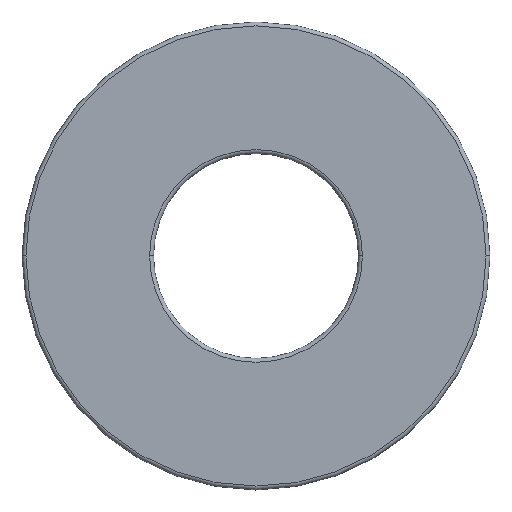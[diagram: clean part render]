
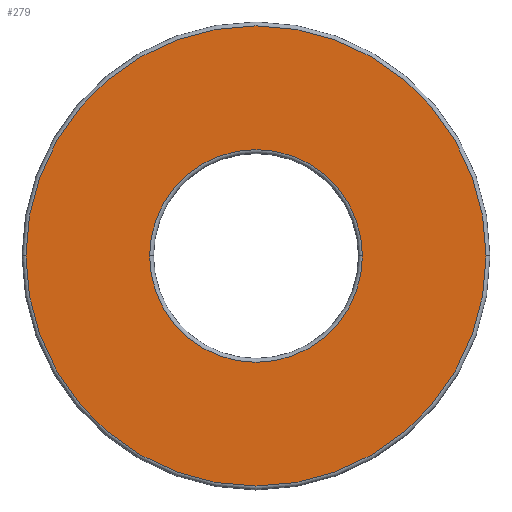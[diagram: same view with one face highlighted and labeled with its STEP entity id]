
A CAD part, top view. The second image highlights one B-rep face of the part: STEP entity #279.
In plain terms, the highlighted planar face has unit normal (0, 0, 1).
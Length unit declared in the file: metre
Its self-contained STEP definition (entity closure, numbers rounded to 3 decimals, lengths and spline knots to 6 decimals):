
#2 = DIRECTION ( 'NONE',  ( 1., 0., 0. ) ) ;
#3 = ORIENTED_EDGE ( 'NONE', *, *, #403, .T. ) ;
#21 = CIRCLE ( 'NONE', #49, 0.005773 ) ;
#34 = ORIENTED_EDGE ( 'NONE', *, *, #50, .T. ) ;
#45 = AXIS2_PLACEMENT_3D ( 'NONE', #310, #56, #2 ) ;
#49 = AXIS2_PLACEMENT_3D ( 'NONE', #174, #402, #130 ) ;
#50 = EDGE_CURVE ( 'NONE', #273, #276, #203, .T. ) ;
#56 = DIRECTION ( 'NONE',  ( 0., 0., 1. ) ) ;
#61 = PLANE ( 'NONE',  #45 ) ;
#92 = CARTESIAN_POINT ( 'NONE',  ( 0., 0., 0.001054 ) ) ;
#95 = AXIS2_PLACEMENT_3D ( 'NONE', #319, #229, #124 ) ;
#117 = CARTESIAN_POINT ( 'NONE',  ( -0.012489, 0., 0.001054 ) ) ;
#118 = AXIS2_PLACEMENT_3D ( 'NONE', #92, #241, #272 ) ;
#123 = CARTESIAN_POINT ( 'NONE',  ( 0., 0., 0.001054 ) ) ;
#124 = DIRECTION ( 'NONE',  ( 1., 0., 0. ) ) ;
#127 = CIRCLE ( 'NONE', #219, 0.005773 ) ;
#128 = EDGE_LOOP ( 'NONE', ( #147, #34 ) ) ;
#130 = DIRECTION ( 'NONE',  ( 1., 0., 0. ) ) ;
#142 = VERTEX_POINT ( 'NONE', #337 ) ;
#147 = ORIENTED_EDGE ( 'NONE', *, *, #243, .T. ) ;
#164 = VERTEX_POINT ( 'NONE', #369 ) ;
#174 = CARTESIAN_POINT ( 'NONE',  ( 0., 0., 0.001054 ) ) ;
#184 = CIRCLE ( 'NONE', #118, 0.012489 ) ;
#187 = EDGE_CURVE ( 'NONE', #164, #142, #21, .T. ) ;
#193 = DIRECTION ( 'NONE',  ( 1., 0., 0. ) ) ;
#196 = DIRECTION ( 'NONE',  ( 0., 0., -1. ) ) ;
#203 = CIRCLE ( 'NONE', #95, 0.012489 ) ;
#215 = FACE_BOUND ( 'NONE', #363, .T. ) ;
#219 = AXIS2_PLACEMENT_3D ( 'NONE', #123, #196, #193 ) ;
#229 = DIRECTION ( 'NONE',  ( 0., 0., 1. ) ) ;
#241 = DIRECTION ( 'NONE',  ( 0., 0., 1. ) ) ;
#243 = EDGE_CURVE ( 'NONE', #276, #273, #184, .T. ) ;
#272 = DIRECTION ( 'NONE',  ( 1., 0., 0. ) ) ;
#273 = VERTEX_POINT ( 'NONE', #117 ) ;
#274 = CARTESIAN_POINT ( 'NONE',  ( 0.012489, 0., 0.001054 ) ) ;
#276 = VERTEX_POINT ( 'NONE', #274 ) ;
#279 = ADVANCED_FACE ( 'NONE', ( #215, #349 ), #61, .T. ) ;
#310 = CARTESIAN_POINT ( 'NONE',  ( 0., 0., 0.001054 ) ) ;
#319 = CARTESIAN_POINT ( 'NONE',  ( 0., 0., 0.001054 ) ) ;
#337 = CARTESIAN_POINT ( 'NONE',  ( 0.005773, 0., 0.001054 ) ) ;
#339 = ORIENTED_EDGE ( 'NONE', *, *, #187, .T. ) ;
#349 = FACE_OUTER_BOUND ( 'NONE', #128, .T. ) ;
#363 = EDGE_LOOP ( 'NONE', ( #3, #339 ) ) ;
#369 = CARTESIAN_POINT ( 'NONE',  ( -0.005773, 0., 0.001054 ) ) ;
#402 = DIRECTION ( 'NONE',  ( 0., 0., -1. ) ) ;
#403 = EDGE_CURVE ( 'NONE', #142, #164, #127, .T. ) ;
